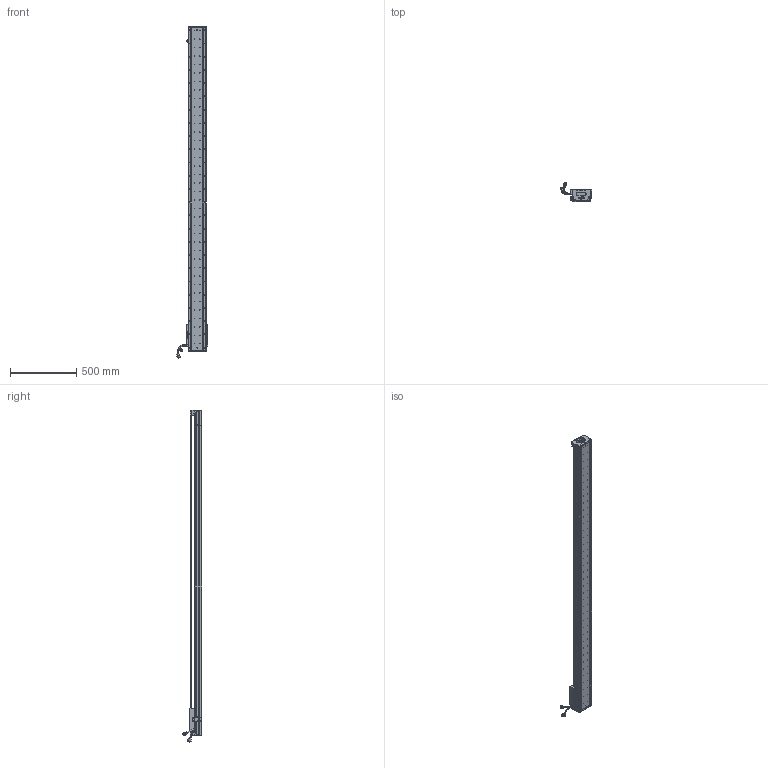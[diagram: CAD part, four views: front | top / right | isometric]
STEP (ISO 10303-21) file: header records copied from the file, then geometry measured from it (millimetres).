
FILE_DESCRIPTION (( 'STEP AP203' ), '1' );
FILE_NAME ('Z2-RY140D-1-L500-B-K.SLDASM_2200.step', '2021-05-17T07:48:54', ( '盈信电脑' ), ( '东莞市道滘镇水果街19号' ), 'SwSTEP 2.0', 'SolidWorks 2016', '' );
FILE_SCHEMA (( 'CONFIG_CONTROL_DESIGN' ));
Length unit declared in the file: millimetre
Products named in the file (36): 覜茼ん672; HOLDER0; Z2-RY140圉猾敕臏賑輸(21遴); 140雄赽晤鎢ん堤盄; SCREW-M1.6-3; 140-Z-臏賑輸盄裔(21遴); SCREW-M1.6; Z-RY140詩湍奻揤裔; HARNESS-Part-1; HARNESS; Z2-RY140D-1-L500-B-K.SLDASM_2200; COVER; Z2-RY140-L500詩湍100mm遵_2200; LABEL-Part-1; SEAL-Part-1; COVER-Part-1; 榋妏寠巭燃_暯_M2_2; SCALE; PBU_SHEET; SCALE-Part-1; Z-RY140感应器672光电感应片; SEAL; 080黍杅芛假蚾釱21遴; SCREW-M1.6-2; SCREW-M1.6-1; 140蚥薯蝶輸; Z2-RY140-L500直线电机模组底座_2200; HARNESS-Part-2; SCREW-M1.7; SCREW-M1.7-1; SHIELDPLATE; Z-RY140詩湍狟揤裔; Z-140詩湍傷裔啣; LABEL; SCALE-Part-2; PSLH080_PSLF2
Assembly tree (41 placements, depth 4):
  Z2-RY140D-1-L500-B-K.SLDASM_2200
    Z2-RY140-L500直线电机模组底座_2200
    Z-RY140感应器672光电感应片
    Z2-RY140圉猾敕臏賑輸(21遴)
    覜茼ん672  x3
    Z2-RY140-L500詩湍100mm遵_2200
    PSLH080_PSLF2
      SCALE
        SCALE-Part-1
        SCALE-Part-2
      HARNESS
        HARNESS-Part-1
        HARNESS-Part-2
      LABEL
        LABEL-Part-1
      COVER
        COVER-Part-1
      SEAL
        SEAL-Part-1
      榋妏寠巭燃_暯_M2_2
      SHIELDPLATE
      SCREW-M1.7
      SCREW-M1.7-1
      PBU_SHEET
      SCREW-M1.6
      SCREW-M1.6-1
      SCREW-M1.6-2
      SCREW-M1.6-3
      HOLDER0
    080黍杅芛假蚾釱21遴
    140-Z-臏賑輸盄裔(21遴)
    Z-140詩湍傷裔啣  x2
    Z-RY140詩湍狟揤裔  x2
    Z-RY140詩湍奻揤裔  x2
    140蚥薯蝶輸  x2
    140雄赽晤鎢ん堤盄
Bounding box: 239.84 x 143.77 x 2510.87 mm (x, y, z)
Volume: 7913160.9 mm3; surface area: 2081896.9 mm2
Topology: 36 solids, 36 shells, 4020 faces, 10928 edges, 6928 vertices
Faces by surface type: cylinder 2158, plane 1352, cone 378, torus 79, bspline 53
Entity records: 127392 total; most frequent: CARTESIAN_POINT 36044, ORIENTED_EDGE 18812, DIRECTION 17424, EDGE_CURVE 9406, AXIS2_PLACEMENT_3D 6476, VERTEX_POINT 6096, VECTOR 4472, LINE 4472
